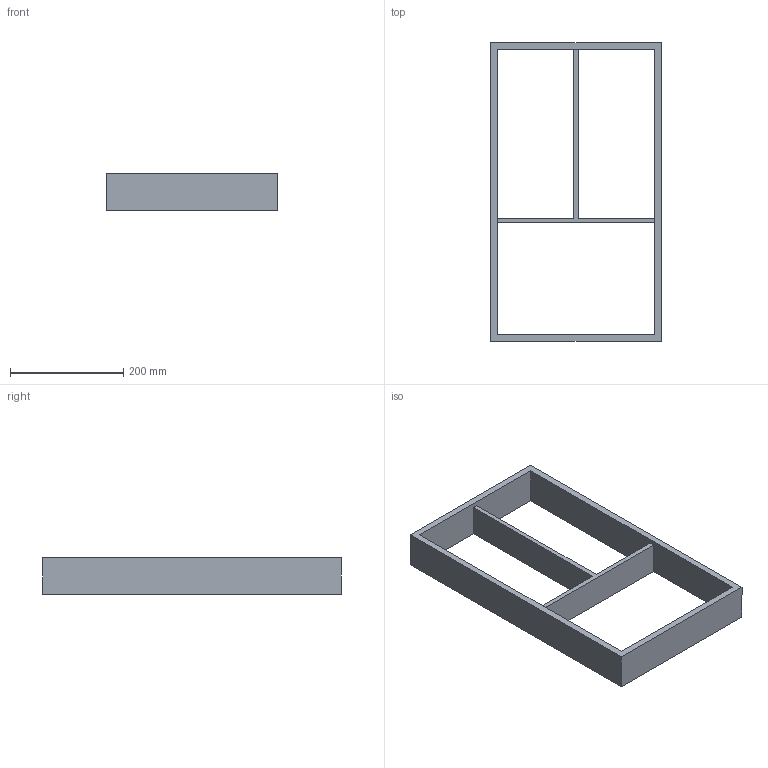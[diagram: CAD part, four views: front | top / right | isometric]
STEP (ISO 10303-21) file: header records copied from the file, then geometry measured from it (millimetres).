
FILE_DESCRIPTION (( 'STEP AP214' ), '1' );
FILE_NAME ('Vario Multi NL550_B400_19 mm_Buche.step', '2010-10-07T06:24:15', ( 'grass' ), ( '' ), 'SwSTEP 2.0', 'SolidWorks 2010', '' );
FILE_SCHEMA (( 'AUTOMOTIVE_DESIGN' ));
Length unit declared in the file: millimetre
Products named in the file (1): Vario Multi NL550_B400_19 mm_Buche
Bounding box: 302 x 529 x 65 mm (x, y, z)
Volume: 1521940.8 mm3; surface area: 321716 mm2
Topology: 1 solids, 1 shells, 16 faces, 48 edges, 32 vertices
Faces by surface type: plane 16
Entity records: 578 total; most frequent: CARTESIAN_POINT 97, ORIENTED_EDGE 96, DIRECTION 82, EDGE_CURVE 48, LINE 48, VECTOR 48, VERTEX_POINT 32, EDGE_LOOP 20
